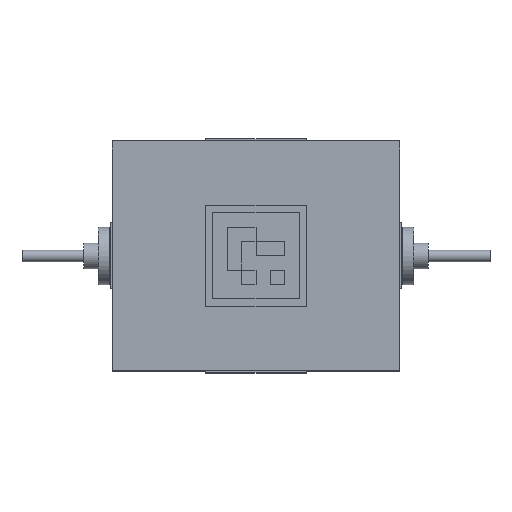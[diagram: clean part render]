
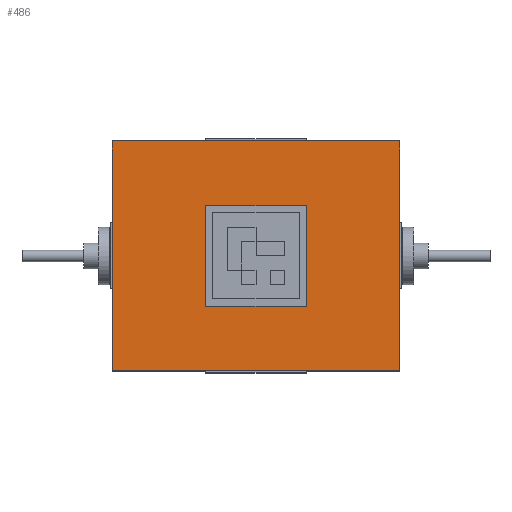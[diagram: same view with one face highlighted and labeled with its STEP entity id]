
A CAD part, top view. The second image highlights one B-rep face of the part: STEP entity #486.
In plain terms, the highlighted planar face has unit normal (0, 0, 1).
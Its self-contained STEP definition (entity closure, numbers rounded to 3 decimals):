
#122 = VERTEX_POINT('',#123);
#123 = CARTESIAN_POINT('',(844.,-80.,620.));
#130 = PLANE('',#131);
#131 = AXIS2_PLACEMENT_3D('',#132,#133,#134);
#132 = CARTESIAN_POINT('',(844.,-80.,480.));
#133 = DIRECTION('',(1.,0.,-0.));
#134 = DIRECTION('',(0.,0.,1.));
#142 = PLANE('',#143);
#143 = AXIS2_PLACEMENT_3D('',#144,#145,#146);
#144 = CARTESIAN_POINT('',(844.,-80.,480.));
#145 = DIRECTION('',(-0.,1.,0.));
#146 = DIRECTION('',(0.,0.,1.));
#183 = VERTEX_POINT('',#184);
#184 = CARTESIAN_POINT('',(844.,80.,620.));
#198 = PLANE('',#199);
#199 = AXIS2_PLACEMENT_3D('',#200,#201,#202);
#200 = CARTESIAN_POINT('',(844.,80.,480.));
#201 = DIRECTION('',(-0.,1.,0.));
#202 = DIRECTION('',(0.,0.,1.));
#210 = EDGE_CURVE('',#122,#183,#211,.T.);
#211 = SURFACE_CURVE('',#212,(#216,#223),.PCURVE_S1.);
#212 = LINE('',#213,#214);
#213 = CARTESIAN_POINT('',(844.,-80.,620.));
#214 = VECTOR('',#215,1.);
#215 = DIRECTION('',(-0.,1.,0.));
#216 = PCURVE('',#130,#217);
#217 = DEFINITIONAL_REPRESENTATION('',(#218),#222);
#218 = LINE('',#219,#220);
#219 = CARTESIAN_POINT('',(140.,0.));
#220 = VECTOR('',#221,1.);
#221 = DIRECTION('',(0.,-1.));
#222 = ( GEOMETRIC_REPRESENTATION_CONTEXT(2) 
PARAMETRIC_REPRESENTATION_CONTEXT() REPRESENTATION_CONTEXT('2D SPACE',''
  ) );
#223 = PCURVE('',#224,#229);
#224 = PLANE('',#225);
#225 = AXIS2_PLACEMENT_3D('',#226,#227,#228);
#226 = CARTESIAN_POINT('',(844.,-80.,620.));
#227 = DIRECTION('',(0.,0.,1.));
#228 = DIRECTION('',(1.,0.,-0.));
#229 = DEFINITIONAL_REPRESENTATION('',(#230),#234);
#230 = LINE('',#231,#232);
#231 = CARTESIAN_POINT('',(0.,0.));
#232 = VECTOR('',#233,1.);
#233 = DIRECTION('',(0.,1.));
#234 = ( GEOMETRIC_REPRESENTATION_CONTEXT(2) 
PARAMETRIC_REPRESENTATION_CONTEXT() REPRESENTATION_CONTEXT('2D SPACE',''
  ) );
#438 = EDGE_CURVE('',#122,#439,#441,.T.);
#439 = VERTEX_POINT('',#440);
#440 = CARTESIAN_POINT('',(1044.,-80.,620.));
#441 = SURFACE_CURVE('',#442,(#446,#453),.PCURVE_S1.);
#442 = LINE('',#443,#444);
#443 = CARTESIAN_POINT('',(844.,-80.,620.));
#444 = VECTOR('',#445,1.);
#445 = DIRECTION('',(1.,0.,-0.));
#446 = PCURVE('',#142,#447);
#447 = DEFINITIONAL_REPRESENTATION('',(#448),#452);
#448 = LINE('',#449,#450);
#449 = CARTESIAN_POINT('',(140.,0.));
#450 = VECTOR('',#451,1.);
#451 = DIRECTION('',(0.,1.));
#452 = ( GEOMETRIC_REPRESENTATION_CONTEXT(2) 
PARAMETRIC_REPRESENTATION_CONTEXT() REPRESENTATION_CONTEXT('2D SPACE',''
  ) );
#453 = PCURVE('',#224,#454);
#454 = DEFINITIONAL_REPRESENTATION('',(#455),#459);
#455 = LINE('',#456,#457);
#456 = CARTESIAN_POINT('',(0.,0.));
#457 = VECTOR('',#458,1.);
#458 = DIRECTION('',(1.,0.));
#459 = ( GEOMETRIC_REPRESENTATION_CONTEXT(2) 
PARAMETRIC_REPRESENTATION_CONTEXT() REPRESENTATION_CONTEXT('2D SPACE',''
  ) );
#475 = PLANE('',#476);
#476 = AXIS2_PLACEMENT_3D('',#477,#478,#479);
#477 = CARTESIAN_POINT('',(1044.,-80.,480.));
#478 = DIRECTION('',(1.,0.,-0.));
#479 = DIRECTION('',(0.,0.,1.));
#486 = ADVANCED_FACE('',(#487),#224,.T.);
#487 = FACE_BOUND('',#488,.T.);
#488 = EDGE_LOOP('',(#489,#490,#491,#514));
#489 = ORIENTED_EDGE('',*,*,#210,.F.);
#490 = ORIENTED_EDGE('',*,*,#438,.T.);
#491 = ORIENTED_EDGE('',*,*,#492,.T.);
#492 = EDGE_CURVE('',#439,#493,#495,.T.);
#493 = VERTEX_POINT('',#494);
#494 = CARTESIAN_POINT('',(1044.,80.,620.));
#495 = SURFACE_CURVE('',#496,(#500,#507),.PCURVE_S1.);
#496 = LINE('',#497,#498);
#497 = CARTESIAN_POINT('',(1044.,-80.,620.));
#498 = VECTOR('',#499,1.);
#499 = DIRECTION('',(-0.,1.,0.));
#500 = PCURVE('',#224,#501);
#501 = DEFINITIONAL_REPRESENTATION('',(#502),#506);
#502 = LINE('',#503,#504);
#503 = CARTESIAN_POINT('',(200.,0.));
#504 = VECTOR('',#505,1.);
#505 = DIRECTION('',(0.,1.));
#506 = ( GEOMETRIC_REPRESENTATION_CONTEXT(2) 
PARAMETRIC_REPRESENTATION_CONTEXT() REPRESENTATION_CONTEXT('2D SPACE',''
  ) );
#507 = PCURVE('',#475,#508);
#508 = DEFINITIONAL_REPRESENTATION('',(#509),#513);
#509 = LINE('',#510,#511);
#510 = CARTESIAN_POINT('',(140.,0.));
#511 = VECTOR('',#512,1.);
#512 = DIRECTION('',(0.,-1.));
#513 = ( GEOMETRIC_REPRESENTATION_CONTEXT(2) 
PARAMETRIC_REPRESENTATION_CONTEXT() REPRESENTATION_CONTEXT('2D SPACE',''
  ) );
#514 = ORIENTED_EDGE('',*,*,#515,.F.);
#515 = EDGE_CURVE('',#183,#493,#516,.T.);
#516 = SURFACE_CURVE('',#517,(#521,#528),.PCURVE_S1.);
#517 = LINE('',#518,#519);
#518 = CARTESIAN_POINT('',(844.,80.,620.));
#519 = VECTOR('',#520,1.);
#520 = DIRECTION('',(1.,0.,-0.));
#521 = PCURVE('',#224,#522);
#522 = DEFINITIONAL_REPRESENTATION('',(#523),#527);
#523 = LINE('',#524,#525);
#524 = CARTESIAN_POINT('',(0.,160.));
#525 = VECTOR('',#526,1.);
#526 = DIRECTION('',(1.,0.));
#527 = ( GEOMETRIC_REPRESENTATION_CONTEXT(2) 
PARAMETRIC_REPRESENTATION_CONTEXT() REPRESENTATION_CONTEXT('2D SPACE',''
  ) );
#528 = PCURVE('',#198,#529);
#529 = DEFINITIONAL_REPRESENTATION('',(#530),#534);
#530 = LINE('',#531,#532);
#531 = CARTESIAN_POINT('',(140.,0.));
#532 = VECTOR('',#533,1.);
#533 = DIRECTION('',(0.,1.));
#534 = ( GEOMETRIC_REPRESENTATION_CONTEXT(2) 
PARAMETRIC_REPRESENTATION_CONTEXT() REPRESENTATION_CONTEXT('2D SPACE',''
  ) );
